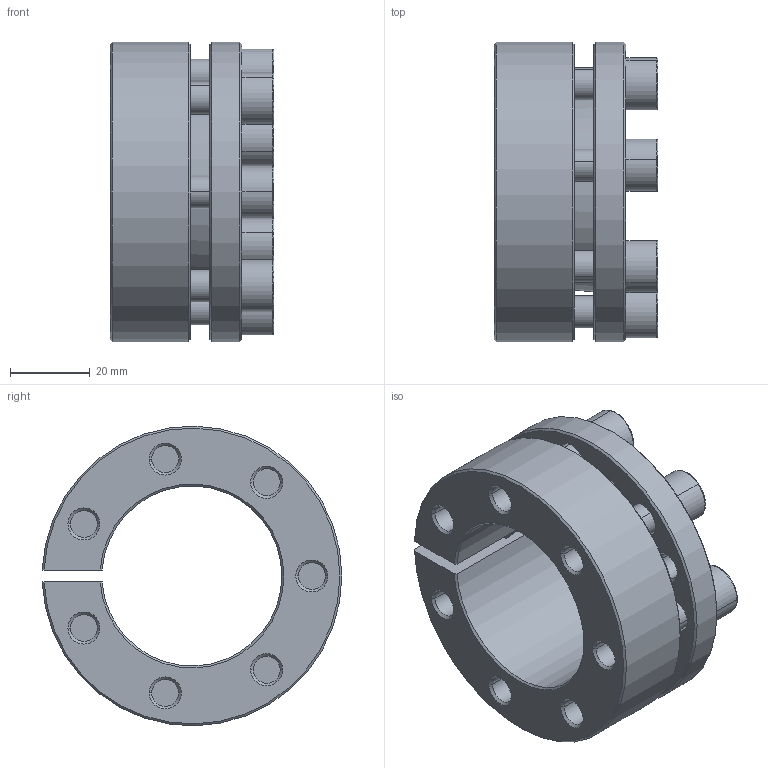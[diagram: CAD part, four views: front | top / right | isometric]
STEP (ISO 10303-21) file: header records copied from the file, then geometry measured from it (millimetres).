
FILE_DESCRIPTION((''),'2;1');
FILE_NAME('398-010-0045','2024-02-17T',('Brieden'),('Brieden'),'PRO/ENGINEER BY PARAMETRIC TECHNOLOGY CORPORATION, 2010160','PRO/ENGINEER BY PARAMETRIC TECHNOLOGY CORPORATION, 2010160','');
FILE_SCHEMA(('AUTOMOTIVE_DESIGN { 1 0 10303 214 1 1 1 1 }'));
Length unit declared in the file: millimetre
Products named in the file (1): 398-010-0045
Bounding box: 41 x 74.97 x 74.98 mm (x, y, z)
Volume: 84059.2 mm3; surface area: 33711.7 mm2
Topology: 1 solids, 8 shells, 202 faces, 476 edges, 304 vertices
Faces by surface type: cylinder 79, plane 76, cone 33, torus 14
Entity records: 7640 total; most frequent: DIRECTION 1092, CARTESIAN_POINT 1055, ORIENTED_EDGE 924, PRESENTATION_STYLE_ASSIGNMENT 498, STYLED_ITEM 484, CURVE_STYLE 476, EDGE_CURVE 476, AXIS2_PLACEMENT_3D 425
